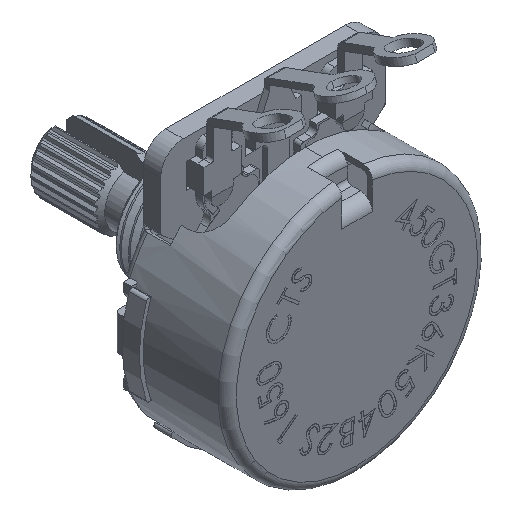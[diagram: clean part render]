
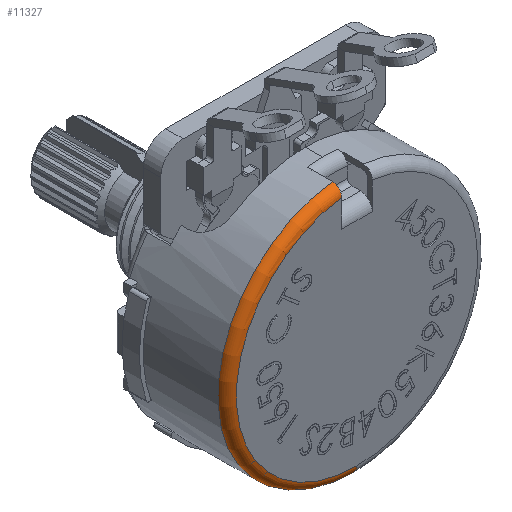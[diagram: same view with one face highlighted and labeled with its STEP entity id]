
A CAD part, isometric view. The second image highlights one B-rep face of the part: STEP entity #11327.
In plain terms, the highlighted toroidal (fillet/blend) face has major radius 10.973 mm and minor radius 0.838 mm.
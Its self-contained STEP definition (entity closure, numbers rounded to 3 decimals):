
#173 = CARTESIAN_POINT ( 'NONE',  ( -1.397, 0.322, 11.558 ) ) ;
#378 = CIRCLE ( 'NONE', #23273, 0.838 ) ;
#908 = CARTESIAN_POINT ( 'NONE',  ( -1.397, 0., 10.884 ) ) ;
#2396 = VERTEX_POINT ( 'NONE', #41809 ) ;
#2667 = CARTESIAN_POINT ( 'NONE',  ( 0., 0.838, -10.973 ) ) ;
#2921 = VERTEX_POINT ( 'NONE', #908 ) ;
#3162 = CARTESIAN_POINT ( 'NONE',  ( -1.397, 0.09, 11.324 ) ) ;
#3298 = ORIENTED_EDGE ( 'NONE', *, *, #12348, .F. ) ;
#3643 = EDGE_CURVE ( 'NONE', #31926, #2396, #378, .T. ) ;
#6046 = CARTESIAN_POINT ( 'NONE',  ( 0., 0.838, 0. ) ) ;
#6214 = CARTESIAN_POINT ( 'NONE',  ( 0., 0., 0. ) ) ;
#6542 = CARTESIAN_POINT ( 'NONE',  ( 0., 0.838, 0. ) ) ;
#9672 = AXIS2_PLACEMENT_3D ( 'NONE', #6542, #32285, #15392 ) ;
#11327 = ADVANCED_FACE ( 'NONE', ( #24898 ), #28530, .T. ) ;
#12227 = CARTESIAN_POINT ( 'NONE',  ( -1.397, 0.415, 11.621 ) ) ;
#12348 = EDGE_CURVE ( 'NONE', #31926, #18380, #13166, .T. ) ;
#12471 = AXIS2_PLACEMENT_3D ( 'NONE', #6046, #32631, #19708 ) ;
#12742 = DIRECTION ( 'NONE',  ( 0., 0., -1. ) ) ;
#12831 = CARTESIAN_POINT ( 'NONE',  ( -1.397, 0.838, 11.728 ) ) ;
#13166 = CIRCLE ( 'NONE', #12471, 11.811 ) ;
#15392 = DIRECTION ( 'NONE',  ( 0., 0., -1. ) ) ;
#15514 = DIRECTION ( 'NONE',  ( 0., 0., 1. ) ) ;
#15857 = AXIS2_PLACEMENT_3D ( 'NONE', #6214, #21841, #12742 ) ;
#18072 = EDGE_LOOP ( 'NONE', ( #3298, #25153, #34675, #30983 ) ) ;
#18380 = VERTEX_POINT ( 'NONE', #30842 ) ;
#19708 = DIRECTION ( 'NONE',  ( 0., 0., -1. ) ) ;
#21841 = DIRECTION ( 'NONE',  ( 0., -1., 0. ) ) ;
#23273 = AXIS2_PLACEMENT_3D ( 'NONE', #2667, #28819, #15514 ) ;
#23958 = CIRCLE ( 'NONE', #15857, 10.973 ) ;
#24898 = FACE_OUTER_BOUND ( 'NONE', #18072, .T. ) ;
#25092 = CARTESIAN_POINT ( 'NONE',  ( -1.397, 0.618, 11.706 ) ) ;
#25153 = ORIENTED_EDGE ( 'NONE', *, *, #3643, .T. ) ;
#27195 = CARTESIAN_POINT ( 'NONE',  ( 0., 0.838, -11.811 ) ) ;
#28530 = TOROIDAL_SURFACE ( 'NONE', #9672, 10.973, 0.838 ) ;
#28819 = DIRECTION ( 'NONE',  ( -1., 0., 0. ) ) ;
#28899 = CARTESIAN_POINT ( 'NONE',  ( -1.397, 0.729, 11.728 ) ) ;
#30842 = CARTESIAN_POINT ( 'NONE',  ( -1.397, 0.838, 11.728 ) ) ;
#30983 = ORIENTED_EDGE ( 'NONE', *, *, #34459, .F. ) ;
#31926 = VERTEX_POINT ( 'NONE', #27195 ) ;
#32285 = DIRECTION ( 'NONE',  ( 0., -1., 0. ) ) ;
#32464 = EDGE_CURVE ( 'NONE', #2921, #2396, #23958, .T. ) ;
#32495 = B_SPLINE_CURVE_WITH_KNOTS ( 'NONE', 3,
 ( #12831, #28899, #25092, #12227, #173, #3162, #34856, #38241 ),
 .UNSPECIFIED., .F., .F.,
 ( 4, 2, 2, 4 ),
 ( 0.003, 0.003, 0.004, 0.004 ),
 .UNSPECIFIED. ) ;
#32631 = DIRECTION ( 'NONE',  ( 0., 1., 0. ) ) ;
#34459 = EDGE_CURVE ( 'NONE', #18380, #2921, #32495, .T. ) ;
#34675 = ORIENTED_EDGE ( 'NONE', *, *, #32464, .F. ) ;
#34856 = CARTESIAN_POINT ( 'NONE',  ( -1.397, 0., 11.105 ) ) ;
#38241 = CARTESIAN_POINT ( 'NONE',  ( -1.397, 0., 10.884 ) ) ;
#41809 = CARTESIAN_POINT ( 'NONE',  ( 0., 0., -10.973 ) ) ;
